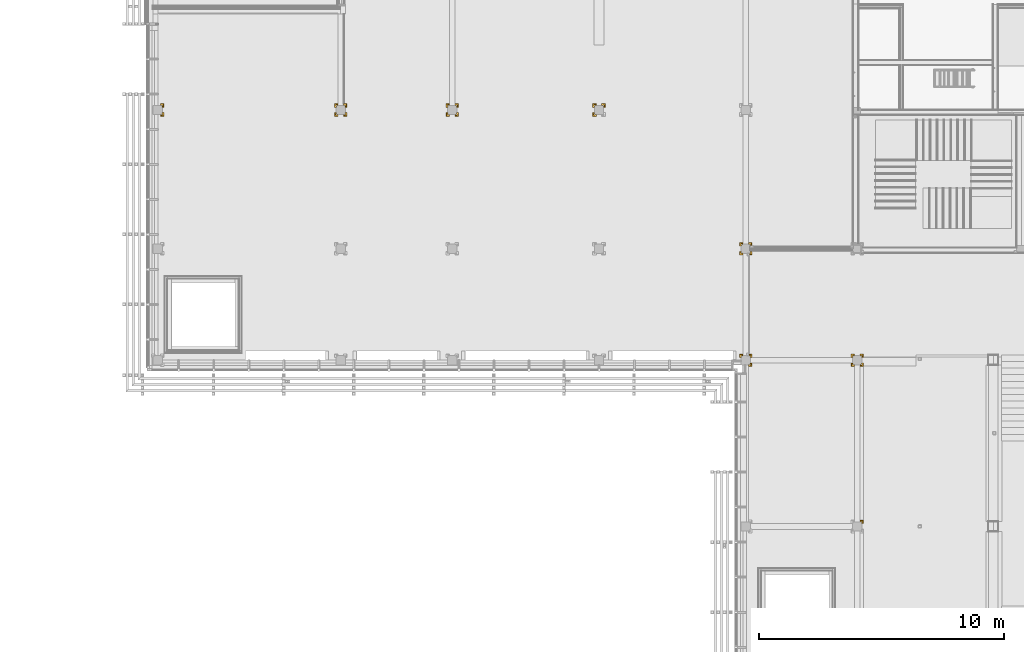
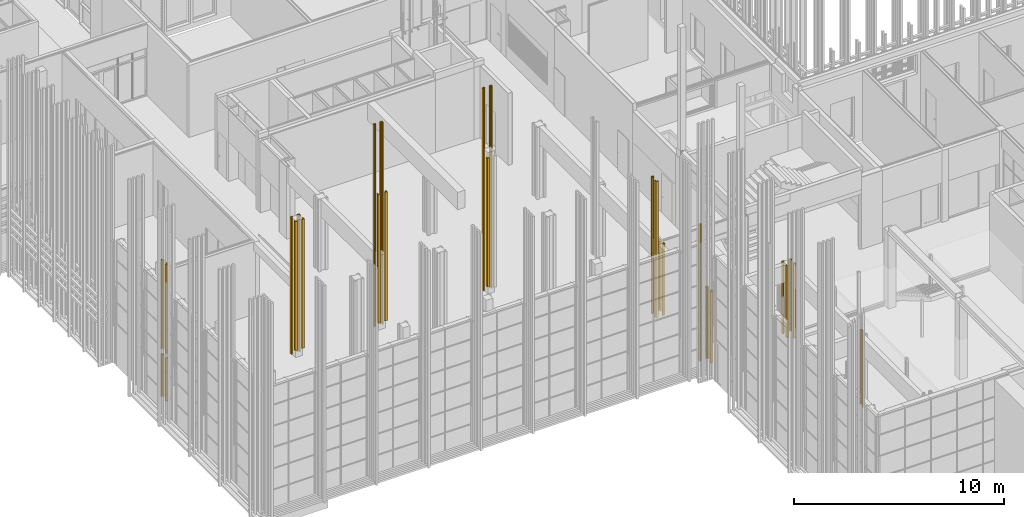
# One storey, part 256 of 260: 27 coverings.
"""IFC2X3 building model written with IfcOpenShell, lengths in millimetres."""

from ifc_helpers import new_model, entity, si_unit, converted_unit, derived_unit, money_unit, direction, frame, origin_with_axes, place, context, subcontext, project, spatial, faceted_brep, material, type_object, element, save


model = new_model("IFC2X3")

# Units and contexts
model_context = context("Model", 3, precision=0.01, world=origin_with_axes(), true_north=direction((0.0, 1.0)))
body_context = subcontext(model_context, "Body", "Model", "MODEL_VIEW")
ifc_project = project(units=[si_unit("LENGTHUNIT", "METRE", prefix="MILLI"), si_unit("AREAUNIT", "SQUARE_METRE"), si_unit("VOLUMEUNIT", "CUBIC_METRE"), converted_unit("PLANEANGLEUNIT", "DEGREE", entity("IfcPlaneAngleMeasure", 0.0174532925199), si_unit("PLANEANGLEUNIT", "RADIAN"), dimensions=[0, 0, 0, 0, 0, 0, 0]), money_unit("EUR"), converted_unit("TIMEUNIT", "Year", entity("IfcTimeMeasure", 31556926.0), si_unit("TIMEUNIT", "SECOND"), dimensions=[0, 0, 1, 0, 0, 0, 0]), si_unit("MASSUNIT", "GRAM", prefix="KILO"), si_unit("THERMODYNAMICTEMPERATUREUNIT", "DEGREE_CELSIUS"), si_unit("LUMINOUSINTENSITYUNIT", "LUMEN"), si_unit("ENERGYUNIT", "JOULE", prefix="MEGA"), derived_unit("THERMALCONDUCTANCEUNIT", [(si_unit("POWERUNIT", "WATT"), 1), (si_unit("LENGTHUNIT", "METRE"), -1), (si_unit("THERMODYNAMICTEMPERATUREUNIT", "KELVIN"), -1)]), derived_unit("SPECIFICHEATCAPACITYUNIT", [(si_unit("ENERGYUNIT", "JOULE"), 1), (si_unit("MASSUNIT", "GRAM", prefix="KILO"), -1), (si_unit("THERMODYNAMICTEMPERATUREUNIT", "KELVIN"), -1)]), derived_unit("MASSDENSITYUNIT", [(si_unit("MASSUNIT", "GRAM", prefix="KILO"), 1), (si_unit("VOLUMEUNIT", "CUBIC_METRE"), -1)])], contexts=[model_context])

# Site, building, storey
site_placement = place(None, origin_with_axes())
site = spatial("IfcSite", under=ifc_project, at=site_placement, Name="Kolde pst 67a", CompositionType="ELEMENT")
building_placement = place(site_placement, origin_with_axes())
building = spatial("IfcBuilding", under=site, at=building_placement, Name="Riigigümnaasium", CompositionType="ELEMENT")
storey_placement = place(building_placement, origin_with_axes())
storey = spatial("IfcBuildingStorey", under=building, at=storey_placement, Name="1. korrus", CompositionType="ELEMENT", Elevation=0.0)

# Coverings
ifc_material = material(Name="_KANDETARIND - liimpuit vastavalt EK osale")
covering_type = type_object("IfcCoveringType", Name="Aatriumi posti kõrvad 1 130 x 130", PredefinedType="NOTDEFINED")
covering_1_placement = place(storey_placement, frame((24230.0027342, 34439.9999729, 2760.0), z_axis=(0.0, 0.0, 1.0), x_axis=(1.0, 0.0, 0.0)))
element("IfcCovering", 1, at=covering_1_placement, inside=storey, type_object=covering_type, material=ifc_material, Name="Posti katteelement", PredefinedType="NOTDEFINED", context=body_context, shape_type="Brep", body=[
    faceted_brep([(120.000002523, -190.000000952, 5180.0), (120.000002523, -190.000000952, 0.0), (120.000002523, -250.0, 0.0), (120.000002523, -250.0, 5180.0), (149.995099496, -189.999999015, 5180.0), (149.995099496, -189.999999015, 0.0), (149.995099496, -209.999998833, 0.0), (209.995099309, -209.999998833, 0.0), (209.995099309, -149.99999902, 0.0), (189.995099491, -149.99999902, 0.0), (189.995101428, -119.999999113, 0.0), (250.00000341, -119.999999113, 0.0), (250.00000341, -250.0, 0.0), (250.00000341, -250.0, 5180.0), (250.00000341, -119.999999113, 5180.0), (189.995101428, -119.999999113, 5180.0), (189.995099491, -149.99999902, 5180.0), (209.995099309, -149.99999902, 5180.0), (209.995099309, -209.999998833, 5180.0), (149.995099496, -209.999998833, 5180.0)], [[[0, 1, 2, 3]], [[4, 5, 1, 0]], [[2, 1, 5, 6, 7, 8, 9, 10, 11, 12]], [[3, 2, 12, 13]], [[4, 0, 3, 13, 14, 15, 16, 17, 18, 19]], [[19, 6, 5, 4]], [[18, 7, 6, 19]], [[17, 8, 7, 18]], [[16, 9, 8, 17]], [[15, 10, 9, 16]], [[14, 11, 10, 15]], [[13, 12, 11, 14]]]),
])
covering_2_placement = place(storey_placement, frame((42239.99923, 34439.9999729, 460.0), z_axis=(0.0, 0.0, 1.0), x_axis=(1.0, 0.0, 0.0)))
element("IfcCovering", 2, at=covering_2_placement, inside=storey, type_object=covering_type, material=ifc_material, Name="Posti katteelement", PredefinedType="NOTDEFINED", context=body_context, shape_type="Brep", body=[
    faceted_brep([(-190.000000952, -120.000002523, 0.0), (-250.0, -120.000002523, 0.0), (-250.0, -120.000002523, 7460.0), (-190.000000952, -120.000002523, 7460.0), (-119.999999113, -189.995101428, 0.0), (-119.999999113, -250.00000341, 0.0), (-250.0, -250.00000341, 0.0), (-189.999999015, -149.995099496, 0.0), (-209.999998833, -149.995099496, 0.0), (-209.999998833, -209.995099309, 0.0), (-149.99999902, -209.995099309, 0.0), (-149.99999902, -189.995099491, 0.0), (-250.0, -250.00000341, 7460.0), (-149.99999902, -209.995099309, 7460.0), (-209.999998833, -209.995099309, 7460.0), (-209.999998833, -149.995099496, 7460.0), (-189.999999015, -149.995099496, 7460.0), (-119.999999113, -250.00000341, 7460.0), (-119.999999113, -189.995101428, 7460.0), (-149.99999902, -189.995099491, 7460.0)], [[[0, 1, 2, 3]], [[4, 5, 6, 1, 0, 7, 8, 9, 10, 11]], [[1, 6, 12, 2]], [[13, 14, 15, 16, 3, 2, 12, 17, 18, 19]], [[7, 0, 3, 16]], [[5, 4, 18, 17]], [[6, 5, 17, 12]], [[8, 7, 16, 15]], [[9, 8, 15, 14]], [[10, 9, 14, 13]], [[11, 10, 13, 19]], [[4, 11, 19, 18]]]),
])
covering_3_placement = place(storey_placement, frame((48229.9854607, 28779.9996998, 0.0), z_axis=(0.0, 0.0, 1.0), x_axis=(1.0, 0.0, 0.0)))
element("IfcCovering", 3, at=covering_3_placement, inside=storey, type_object=covering_type, material=ifc_material, Name="Posti katteelement", PredefinedType="NOTDEFINED", context=body_context, shape_type="Brep", body=[
    faceted_brep([(-250.0, -120.000002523, 7920.0), (-190.000000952, -120.000002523, 7920.0), (-190.000000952, -120.000002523, 0.0), (-250.0, -120.000002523, 0.0), (-209.999998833, -149.995099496, 7920.0), (-189.999999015, -149.995099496, 7920.0), (-250.0, -250.00000341, 7920.0), (-119.999999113, -250.00000341, 7920.0), (-119.999999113, -189.995101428, 7920.0), (-149.99999902, -189.995099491, 7920.0), (-149.99999902, -209.995099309, 7920.0), (-209.999998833, -209.995099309, 7920.0), (-189.999999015, -149.995099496, 0.0), (-250.0, -250.00000341, 0.0), (-209.999998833, -149.995099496, 0.0), (-209.999998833, -209.995099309, 0.0), (-149.99999902, -209.995099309, 0.0), (-149.99999902, -189.995099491, 0.0), (-119.999999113, -189.995101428, 0.0), (-119.999999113, -250.00000341, 0.0)], [[[0, 1, 2, 3]], [[4, 5, 1, 0, 6, 7, 8, 9, 10, 11]], [[1, 5, 12, 2]], [[13, 3, 2, 12, 14, 15, 16, 17, 18, 19]], [[6, 0, 3, 13]], [[5, 4, 14, 12]], [[7, 6, 13, 19]], [[8, 7, 19, 18]], [[9, 8, 18, 17]], [[10, 9, 17, 16]], [[11, 10, 16, 15]], [[4, 11, 15, 14]]]),
])
covering_4_placement = place(storey_placement, frame((31700.0027795, 34439.9999729, 460.0), z_axis=(0.0, 0.0, 1.0), x_axis=(1.0, 0.0, 0.0)))
element("IfcCovering", 4, at=covering_4_placement, inside=storey, type_object=covering_type, material=ifc_material, Name="Posti katteelement", PredefinedType="NOTDEFINED", context=body_context, shape_type="Brep", body=[
    faceted_brep([(-250.0, -120.000002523, 0.0), (-250.0, -120.000002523, 7480.0), (-190.000000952, -120.000002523, 7480.0), (-190.000000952, -120.000002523, 0.0), (-250.0, -250.00000341, 0.0), (-250.0, -250.00000341, 7480.0), (-209.999998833, -209.995099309, 7480.0), (-209.999998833, -149.995099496, 7480.0), (-189.999999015, -149.995099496, 7480.0), (-119.999999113, -250.00000341, 7480.0), (-119.999999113, -189.995101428, 7480.0), (-149.99999902, -189.995099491, 7480.0), (-149.99999902, -209.995099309, 7480.0), (-189.999999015, -149.995099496, 0.0), (-119.999999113, -250.00000341, 0.0), (-209.999998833, -149.995099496, 0.0), (-209.999998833, -209.995099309, 0.0), (-149.99999902, -209.995099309, 0.0), (-149.99999902, -189.995099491, 0.0), (-119.999999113, -189.995101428, 0.0)], [[[0, 1, 2, 3]], [[4, 5, 1, 0]], [[6, 7, 8, 2, 1, 5, 9, 10, 11, 12]], [[3, 2, 8, 13]], [[14, 4, 0, 3, 13, 15, 16, 17, 18, 19]], [[14, 9, 5, 4]], [[15, 7, 6, 16]], [[13, 8, 7, 15]], [[19, 10, 9, 14]], [[18, 11, 10, 19]], [[17, 12, 11, 18]], [[16, 6, 12, 17]]]),
])
covering_5_placement = place(storey_placement, frame((36249.99923, 34439.9999729, 460.0), z_axis=(0.0, 0.0, 1.0), x_axis=(1.0, 0.0, 0.0)))
element("IfcCovering", 5, at=covering_5_placement, inside=storey, type_object=covering_type, material=ifc_material, Name="Posti katteelement", PredefinedType="NOTDEFINED", context=body_context, shape_type="Brep", body=[
    faceted_brep([(-190.000000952, -120.000002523, 0.0), (-250.0, -120.000002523, 0.0), (-250.0, -120.000002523, 7460.0), (-190.000000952, -120.000002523, 7460.0), (-119.999999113, -189.995101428, 0.0), (-119.999999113, -250.00000341, 0.0), (-250.0, -250.00000341, 0.0), (-189.999999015, -149.995099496, 0.0), (-209.999998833, -149.995099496, 0.0), (-209.999998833, -209.995099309, 0.0), (-149.99999902, -209.995099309, 0.0), (-149.99999902, -189.995099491, 0.0), (-250.0, -250.00000341, 7460.0), (-149.99999902, -209.995099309, 7460.0), (-209.999998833, -209.995099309, 7460.0), (-209.999998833, -149.995099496, 7460.0), (-189.999999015, -149.995099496, 7460.0), (-119.999999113, -250.00000341, 7460.0), (-119.999999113, -189.995101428, 7460.0), (-149.99999902, -189.995099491, 7460.0)], [[[0, 1, 2, 3]], [[4, 5, 6, 1, 0, 7, 8, 9, 10, 11]], [[1, 6, 12, 2]], [[13, 14, 15, 16, 3, 2, 12, 17, 18, 19]], [[7, 0, 3, 16]], [[5, 4, 18, 17]], [[6, 5, 17, 12]], [[8, 7, 16, 15]], [[9, 8, 15, 14]], [[10, 9, 14, 13]], [[11, 10, 13, 19]], [[4, 11, 19, 18]]]),
])
covering_6_placement = place(storey_placement, frame((52779.9941032, 24229.9965348, 0.0), z_axis=(0.0, 0.0, 1.0), x_axis=(1.0, 0.0, 0.0)))
element("IfcCovering", 6, at=covering_6_placement, inside=storey, type_object=covering_type, material=ifc_material, Name="Posti katteelement", PredefinedType="NOTDEFINED", context=body_context, shape_type="Brep", body=[
    faceted_brep([(-120.000002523, 250.0, 4170.0), (-120.000002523, 190.000000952, 4170.0), (-120.000002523, 190.000000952, 0.0), (-120.000002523, 250.0, 0.0), (-149.995099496, 209.999998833, 4170.0), (-149.995099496, 189.999999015, 4170.0), (-250.00000341, 250.0, 4170.0), (-250.00000341, 119.999999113, 4170.0), (-189.995101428, 119.999999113, 4170.0), (-189.995099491, 149.99999902, 4170.0), (-209.995099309, 149.99999902, 4170.0), (-209.995099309, 209.999998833, 4170.0), (-149.995099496, 189.999999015, 0.0), (-250.00000341, 250.0, 0.0), (-149.995099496, 209.999998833, 0.0), (-209.995099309, 209.999998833, 0.0), (-209.995099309, 149.99999902, 0.0), (-189.995099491, 149.99999902, 0.0), (-189.995101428, 119.999999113, 0.0), (-250.00000341, 119.999999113, 0.0)], [[[0, 1, 2, 3]], [[4, 5, 1, 0, 6, 7, 8, 9, 10, 11]], [[1, 5, 12, 2]], [[13, 3, 2, 12, 14, 15, 16, 17, 18, 19]], [[6, 0, 3, 13]], [[5, 4, 14, 12]], [[7, 6, 13, 19]], [[8, 7, 19, 18]], [[9, 8, 18, 17]], [[10, 9, 17, 16]], [[11, 10, 16, 15]], [[4, 11, 15, 14]]]),
])
covering_7_placement = place(storey_placement, frame((48229.9854607, 24229.9965348, 0.0), z_axis=(0.0, 0.0, 1.0), x_axis=(1.0, 0.0, 0.0)))
element("IfcCovering", 7, at=covering_7_placement, inside=storey, type_object=covering_type, material=ifc_material, Name="Posti katteelement", PredefinedType="NOTDEFINED", context=body_context, shape_type="Brep", body=[
    faceted_brep([(149.995099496, 189.999999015, 4170.0), (149.995099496, 189.999999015, 0.0), (149.995099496, 209.999998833, 0.0), (149.995099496, 209.999998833, 4170.0), (120.000002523, 190.000000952, 4170.0), (120.000002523, 190.000000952, 0.0), (120.000002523, 250.0, 0.0), (250.00000341, 250.0, 0.0), (250.00000341, 119.999999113, 0.0), (189.995101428, 119.999999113, 0.0), (189.995099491, 149.99999902, 0.0), (209.995099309, 149.99999902, 0.0), (209.995099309, 209.999998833, 0.0), (209.995099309, 209.999998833, 4170.0), (209.995099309, 149.99999902, 4170.0), (189.995099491, 149.99999902, 4170.0), (189.995101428, 119.999999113, 4170.0), (250.00000341, 119.999999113, 4170.0), (250.00000341, 250.0, 4170.0), (120.000002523, 250.0, 4170.0)], [[[0, 1, 2, 3]], [[4, 5, 1, 0]], [[2, 1, 5, 6, 7, 8, 9, 10, 11, 12]], [[3, 2, 12, 13]], [[4, 0, 3, 13, 14, 15, 16, 17, 18, 19]], [[19, 6, 5, 4]], [[18, 7, 6, 19]], [[17, 8, 7, 18]], [[16, 9, 8, 17]], [[15, 10, 9, 16]], [[14, 11, 10, 15]], [[13, 12, 11, 14]]]),
])
covering_8_placement = place(storey_placement, frame((48229.9854607, 24229.9965348, 0.0), z_axis=(0.0, 0.0, 1.0), x_axis=(1.0, 0.0, 0.0)))
element("IfcCovering", 8, at=covering_8_placement, inside=storey, type_object=covering_type, material=ifc_material, Name="Posti katteelement", PredefinedType="NOTDEFINED", context=body_context, shape_type="Brep", body=[
    faceted_brep([(-120.000002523, 190.000000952, 7920.0), (-120.000002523, 190.000000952, 0.0), (-120.000002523, 250.0, 0.0), (-120.000002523, 250.0, 7920.0), (-149.995099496, 189.999999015, 7920.0), (-149.995099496, 189.999999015, 0.0), (-149.995099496, 209.999998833, 0.0), (-209.995099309, 209.999998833, 0.0), (-209.995099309, 149.99999902, 0.0), (-189.995099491, 149.99999902, 0.0), (-189.995101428, 119.999999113, 0.0), (-250.00000341, 119.999999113, 0.0), (-250.00000341, 250.0, 0.0), (-250.00000341, 250.0, 7920.0), (-250.00000341, 119.999999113, 7920.0), (-189.995101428, 119.999999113, 7920.0), (-189.995099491, 149.99999902, 7920.0), (-209.995099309, 149.99999902, 7920.0), (-209.995099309, 209.999998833, 7920.0), (-149.995099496, 209.999998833, 7920.0)], [[[0, 1, 2, 3]], [[4, 5, 1, 0]], [[2, 1, 5, 6, 7, 8, 9, 10, 11, 12]], [[3, 2, 12, 13]], [[4, 0, 3, 13, 14, 15, 16, 17, 18, 19]], [[19, 6, 5, 4]], [[18, 7, 6, 19]], [[17, 8, 7, 18]], [[16, 9, 8, 17]], [[15, 10, 9, 16]], [[14, 11, 10, 15]], [[13, 12, 11, 14]]]),
])
for number, where, z_axis, x_axis in (
    (9, (42239.99923, 34439.9999729, 0.0), (0.0, 0.0, 1.0), (-1.36394648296e-08, -1.0, 0.0)),
    (10, (42239.99923, 34439.9999729, 0.0), (0.0, 0.0, 1.0), (-0.999999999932, -1.1679308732e-05, 0.0)),
    (11, (36249.99923, 34439.9999729, 0.0), (0.0, 0.0, 1.0), (-1.36394648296e-08, -1.0, 0.0)),
    (12, (36249.99923, 34439.9999729, 0.0), (0.0, 0.0, 1.0), (-1.0, 0.0, 0.0)),
):
    element("IfcCovering", number, at=place(storey_placement, frame(where, z_axis=z_axis, x_axis=x_axis)), inside=storey, type_object=covering_type, material=ifc_material, Name="Posti katteelement", PredefinedType="NOTDEFINED", context=body_context, shape_type="Brep", body=[
        faceted_brep([(-190.000000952, -120.000002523, 11730.0), (-190.000000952, -120.000002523, 0.0), (-250.0, -120.000002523, 0.0), (-250.0, -120.000002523, 11730.0), (-189.999999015, -149.995099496, 11730.0), (-189.999999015, -149.995099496, 0.0), (-209.999998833, -149.995099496, 0.0), (-209.999998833, -209.995099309, 0.0), (-149.99999902, -209.995099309, 0.0), (-149.99999902, -189.995099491, 0.0), (-119.999999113, -189.995101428, 0.0), (-119.999999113, -250.00000341, 0.0), (-250.0, -250.00000341, 0.0), (-250.0, -250.00000341, 11730.0), (-119.999999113, -250.00000341, 11730.0), (-119.999999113, -189.995101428, 11730.0), (-149.99999902, -189.995099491, 11730.0), (-149.99999902, -209.995099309, 11730.0), (-209.999998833, -209.995099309, 11730.0), (-209.999998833, -149.995099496, 11730.0)], [[[0, 1, 2, 3]], [[4, 5, 1, 0]], [[2, 1, 5, 6, 7, 8, 9, 10, 11, 12]], [[3, 2, 12, 13]], [[4, 0, 3, 13, 14, 15, 16, 17, 18, 19]], [[19, 6, 5, 4]], [[18, 7, 6, 19]], [[17, 8, 7, 18]], [[16, 9, 8, 17]], [[15, 10, 9, 16]], [[14, 11, 10, 15]], [[13, 12, 11, 14]]]),
    ])
covering_9_placement = place(storey_placement, frame((36249.99923, 34439.9999729, 460.0), z_axis=(0.0, 0.0, 1.0), x_axis=(1.36394649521e-08, 1.0, 0.0)))
element("IfcCovering", 13, at=covering_9_placement, inside=storey, type_object=covering_type, material=ifc_material, Name="Posti katteelement", PredefinedType="NOTDEFINED", context=body_context, shape_type="Brep", body=[
    faceted_brep([(-190.000000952, -120.000002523, 7460.0), (-190.000000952, -120.000002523, 0.0), (-250.0, -120.000002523, 0.0), (-250.0, -120.000002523, 7460.0), (-189.999999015, -149.995099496, 7460.0), (-189.999999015, -149.995099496, 0.0), (-209.999998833, -149.995099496, 0.0), (-209.999998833, -209.995099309, 0.0), (-149.99999902, -209.995099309, 0.0), (-149.99999902, -189.995099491, 0.0), (-119.999999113, -189.995101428, 0.0), (-119.999999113, -250.00000341, 0.0), (-250.0, -250.00000341, 0.0), (-250.0, -250.00000341, 7460.0), (-119.999999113, -250.00000341, 7460.0), (-119.999999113, -189.995101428, 7460.0), (-149.99999902, -189.995099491, 7460.0), (-149.99999902, -209.995099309, 7460.0), (-209.999998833, -209.995099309, 7460.0), (-209.999998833, -149.995099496, 7460.0)], [[[0, 1, 2, 3]], [[4, 5, 1, 0]], [[2, 1, 5, 6, 7, 8, 9, 10, 11, 12]], [[3, 2, 12, 13]], [[4, 0, 3, 13, 14, 15, 16, 17, 18, 19]], [[19, 6, 5, 4]], [[18, 7, 6, 19]], [[17, 8, 7, 18]], [[16, 9, 8, 17]], [[15, 10, 9, 16]], [[14, 11, 10, 15]], [[13, 12, 11, 14]]]),
])
for number, where, z_axis, x_axis in (
    (14, (31700.0027795, 34439.9999729, 0.0), (0.0, 0.0, 1.0), (0.0, -1.0, 0.0)),
    (15, (31700.0027795, 34439.9999729, 0.0), (0.0, 0.0, 1.0), (-1.0, 0.0, 0.0)),
):
    element("IfcCovering", number, at=place(storey_placement, frame(where, z_axis=z_axis, x_axis=x_axis)), inside=storey, type_object=covering_type, material=ifc_material, Name="Posti katteelement", PredefinedType="NOTDEFINED", context=body_context, shape_type="Brep", body=[
        faceted_brep([(-190.000000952, -120.000002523, 7940.0), (-190.000000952, -120.000002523, 0.0), (-250.0, -120.000002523, 0.0), (-250.0, -120.000002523, 7940.0), (-189.999999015, -149.995099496, 7940.0), (-189.999999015, -149.995099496, 0.0), (-209.999998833, -149.995099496, 0.0), (-209.999998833, -209.995099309, 0.0), (-149.99999902, -209.995099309, 0.0), (-149.99999902, -189.995099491, 0.0), (-119.999999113, -189.995101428, 0.0), (-119.999999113, -250.00000341, 0.0), (-250.0, -250.00000341, 0.0), (-250.0, -250.00000341, 7940.0), (-119.999999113, -250.00000341, 7940.0), (-119.999999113, -189.995101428, 7940.0), (-149.99999902, -189.995099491, 7940.0), (-149.99999902, -209.995099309, 7940.0), (-209.999998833, -209.995099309, 7940.0), (-209.999998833, -149.995099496, 7940.0)], [[[0, 1, 2, 3]], [[4, 5, 1, 0]], [[2, 1, 5, 6, 7, 8, 9, 10, 11, 12]], [[3, 2, 12, 13]], [[4, 0, 3, 13, 14, 15, 16, 17, 18, 19]], [[19, 6, 5, 4]], [[18, 7, 6, 19]], [[17, 8, 7, 18]], [[16, 9, 8, 17]], [[15, 10, 9, 16]], [[14, 11, 10, 15]], [[13, 12, 11, 14]]]),
    ])
covering_10_placement = place(storey_placement, frame((31700.0027795, 34439.9999729, 460.0), z_axis=(0.0, 0.0, 1.0), x_axis=(0.0, 1.0, 0.0)))
element("IfcCovering", 16, at=covering_10_placement, inside=storey, type_object=covering_type, material=ifc_material, Name="Posti katteelement", PredefinedType="NOTDEFINED", context=body_context, shape_type="Brep", body=[
    faceted_brep([(-190.000000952, -120.000002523, 7480.0), (-190.000000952, -120.000002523, 0.0), (-250.0, -120.000002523, 0.0), (-250.0, -120.000002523, 7480.0), (-189.999999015, -149.995099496, 7480.0), (-189.999999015, -149.995099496, 0.0), (-209.999998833, -149.995099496, 0.0), (-209.999998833, -209.995099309, 0.0), (-149.99999902, -209.995099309, 0.0), (-149.99999902, -189.995099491, 0.0), (-119.999999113, -189.995101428, 0.0), (-119.999999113, -250.00000341, 0.0), (-250.0, -250.00000341, 0.0), (-250.0, -250.00000341, 7480.0), (-119.999999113, -250.00000341, 7480.0), (-119.999999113, -189.995101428, 7480.0), (-149.99999902, -189.995099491, 7480.0), (-149.99999902, -209.995099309, 7480.0), (-209.999998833, -209.995099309, 7480.0), (-209.999998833, -149.995099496, 7480.0)], [[[0, 1, 2, 3]], [[4, 5, 1, 0]], [[2, 1, 5, 6, 7, 8, 9, 10, 11, 12]], [[3, 2, 12, 13]], [[4, 0, 3, 13, 14, 15, 16, 17, 18, 19]], [[19, 6, 5, 4]], [[18, 7, 6, 19]], [[17, 8, 7, 18]], [[16, 9, 8, 17]], [[15, 10, 9, 16]], [[14, 11, 10, 15]], [[13, 12, 11, 14]]]),
])
covering_11_placement = place(storey_placement, frame((48229.9854607, 28779.9996998, 0.0), z_axis=(0.0, 0.0, 1.0), x_axis=(0.0, -1.0, 0.0)))
element("IfcCovering", 17, at=covering_11_placement, inside=storey, type_object=covering_type, material=ifc_material, Name="Posti katteelement", PredefinedType="NOTDEFINED", context=body_context, shape_type="Brep", body=[
    faceted_brep([(-190.000000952, -120.000002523, 7920.0), (-190.000000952, -120.000002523, 0.0), (-250.0, -120.000002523, 0.0), (-250.0, -120.000002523, 7920.0), (-189.999999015, -149.995099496, 7920.0), (-189.999999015, -149.995099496, 0.0), (-209.999998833, -149.995099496, 0.0), (-209.999998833, -209.995099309, 0.0), (-149.99999902, -209.995099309, 0.0), (-149.99999902, -189.995099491, 0.0), (-119.999999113, -189.995101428, 0.0), (-119.999999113, -250.00000341, 0.0), (-250.0, -250.00000341, 0.0), (-250.0, -250.00000341, 7920.0), (-119.999999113, -250.00000341, 7920.0), (-119.999999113, -189.995101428, 7920.0), (-149.99999902, -189.995099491, 7920.0), (-149.99999902, -209.995099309, 7920.0), (-209.999998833, -209.995099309, 7920.0), (-209.999998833, -149.995099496, 7920.0)], [[[0, 1, 2, 3]], [[4, 5, 1, 0]], [[2, 1, 5, 6, 7, 8, 9, 10, 11, 12]], [[3, 2, 12, 13]], [[4, 0, 3, 13, 14, 15, 16, 17, 18, 19]], [[19, 6, 5, 4]], [[18, 7, 6, 19]], [[17, 8, 7, 18]], [[16, 9, 8, 17]], [[15, 10, 9, 16]], [[14, 11, 10, 15]], [[13, 12, 11, 14]]]),
])
for number, where, z_axis, x_axis in (
    (18, (48229.9854607, 28779.9996998, 0.0), (0.0, 0.0, 1.0), (-1.0, 0.0, 0.0)),
    (19, (48229.9854607, 28779.9996998, 0.0), (0.0, 0.0, 1.0), (0.0, 1.0, 0.0)),
):
    element("IfcCovering", number, at=place(storey_placement, frame(where, z_axis=z_axis, x_axis=x_axis)), inside=storey, type_object=covering_type, material=ifc_material, Name="Posti katteelement", PredefinedType="NOTDEFINED", context=body_context, shape_type="Brep", body=[
        faceted_brep([(-190.000000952, -120.000002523, 4170.0), (-190.000000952, -120.000002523, 0.0), (-250.0, -120.000002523, 0.0), (-250.0, -120.000002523, 4170.0), (-189.999999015, -149.995099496, 4170.0), (-189.999999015, -149.995099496, 0.0), (-209.999998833, -149.995099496, 0.0), (-209.999998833, -209.995099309, 0.0), (-149.99999902, -209.995099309, 0.0), (-149.99999902, -189.995099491, 0.0), (-119.999999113, -189.995101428, 0.0), (-119.999999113, -250.00000341, 0.0), (-250.0, -250.00000341, 0.0), (-250.0, -250.00000341, 4170.0), (-119.999999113, -250.00000341, 4170.0), (-119.999999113, -189.995101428, 4170.0), (-149.99999902, -189.995099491, 4170.0), (-149.99999902, -209.995099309, 4170.0), (-209.999998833, -209.995099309, 4170.0), (-209.999998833, -149.995099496, 4170.0)], [[[0, 1, 2, 3]], [[4, 5, 1, 0]], [[2, 1, 5, 6, 7, 8, 9, 10, 11, 12]], [[3, 2, 12, 13]], [[4, 0, 3, 13, 14, 15, 16, 17, 18, 19]], [[19, 6, 5, 4]], [[18, 7, 6, 19]], [[17, 8, 7, 18]], [[16, 9, 8, 17]], [[15, 10, 9, 16]], [[14, 11, 10, 15]], [[13, 12, 11, 14]]]),
    ])
covering_12_placement = place(storey_placement, frame((24230.0027342, 34439.9999729, 2760.0), z_axis=(0.0, 0.0, 1.0), x_axis=(1.36394791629e-08, 1.0, 0.0)))
element("IfcCovering", 20, at=covering_12_placement, inside=storey, type_object=covering_type, material=ifc_material, Name="Posti katteelement", PredefinedType="NOTDEFINED", context=body_context, shape_type="Brep", body=[
    faceted_brep([(120.000002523, -190.000000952, 5180.0), (120.000002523, -190.000000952, 0.0), (120.000002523, -250.0, 0.0), (120.000002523, -250.0, 5180.0), (149.995099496, -189.999999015, 5180.0), (149.995099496, -189.999999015, 0.0), (149.995099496, -209.999998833, 0.0), (209.995099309, -209.999998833, 0.0), (209.995099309, -149.99999902, 0.0), (189.995099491, -149.99999902, 0.0), (189.995101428, -119.999999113, 0.0), (250.00000341, -119.999999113, 0.0), (250.00000341, -250.0, 0.0), (250.00000341, -250.0, 5180.0), (250.00000341, -119.999999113, 5180.0), (189.995101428, -119.999999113, 5180.0), (189.995099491, -149.99999902, 5180.0), (209.995099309, -149.99999902, 5180.0), (209.995099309, -209.999998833, 5180.0), (149.995099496, -209.999998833, 5180.0)], [[[0, 1, 2, 3]], [[4, 5, 1, 0]], [[2, 1, 5, 6, 7, 8, 9, 10, 11, 12]], [[3, 2, 12, 13]], [[4, 0, 3, 13, 14, 15, 16, 17, 18, 19]], [[19, 6, 5, 4]], [[18, 7, 6, 19]], [[17, 8, 7, 18]], [[16, 9, 8, 17]], [[15, 10, 9, 16]], [[14, 11, 10, 15]], [[13, 12, 11, 14]]]),
])
for number, where, z_axis, x_axis in (
    (21, (24230.0027342, 34439.9999729, 0.0), (0.0, 0.0, 1.0), (1.0, 0.0, 0.0)),
    (22, (24230.0027342, 34439.9999729, 0.0), (0.0, 0.0, 1.0), (1.36394791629e-08, 1.0, 0.0)),
):
    element("IfcCovering", number, at=place(storey_placement, frame(where, z_axis=z_axis, x_axis=x_axis)), inside=storey, type_object=covering_type, material=ifc_material, Name="Posti katteelement", PredefinedType="NOTDEFINED", context=body_context, shape_type="Brep", body=[
        faceted_brep([(120.000002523, -190.000000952, 2480.0), (120.000002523, -190.000000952, 0.0), (120.000002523, -250.0, 0.0), (120.000002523, -250.0, 2480.0), (149.995099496, -189.999999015, 2480.0), (149.995099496, -189.999999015, 0.0), (149.995099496, -209.999998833, 0.0), (209.995099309, -209.999998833, 0.0), (209.995099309, -149.99999902, 0.0), (189.995099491, -149.99999902, 0.0), (189.995101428, -119.999999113, 0.0), (250.00000341, -119.999999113, 0.0), (250.00000341, -250.0, 0.0), (250.00000341, -250.0, 2480.0), (250.00000341, -119.999999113, 2480.0), (189.995101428, -119.999999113, 2480.0), (189.995099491, -149.99999902, 2480.0), (209.995099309, -149.99999902, 2480.0), (209.995099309, -209.999998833, 2480.0), (149.995099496, -209.999998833, 2480.0)], [[[0, 1, 2, 3]], [[4, 5, 1, 0]], [[2, 1, 5, 6, 7, 8, 9, 10, 11, 12]], [[3, 2, 12, 13]], [[4, 0, 3, 13, 14, 15, 16, 17, 18, 19]], [[19, 6, 5, 4]], [[18, 7, 6, 19]], [[17, 8, 7, 18]], [[16, 9, 8, 17]], [[15, 10, 9, 16]], [[14, 11, 10, 15]], [[13, 12, 11, 14]]]),
    ])
covering_13_placement = place(storey_placement, frame((52779.9941032, 17449.9999742, -300.0), z_axis=(0.0, 0.0, 1.0), x_axis=(0.0, -1.0, 0.0)))
element("IfcCovering", 23, at=covering_13_placement, inside=storey, type_object=covering_type, material=ifc_material, Name="Posti katteelement", PredefinedType="NOTDEFINED", context=body_context, shape_type="Brep", body=[
    faceted_brep([(-189.999999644, 250.00000341, 0.0), (-189.999999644, 250.00000341, 150.0), (-250.00000341, 250.00000341, 150.0), (-250.00000341, 250.0, 4470.0), (-120.000002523, 250.0, 4470.0), (-120.000002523, 250.0, 0.0), (-189.999999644, 209.999998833, 0.0), (-189.999999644, 209.999998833, 150.0), (-250.00000341, 119.999999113, 150.0), (-209.995099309, 209.999998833, 150.0), (-209.995099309, 149.99999902, 150.0), (-189.999999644, 149.99999902, 150.0), (-189.999999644, 119.999999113, 150.0), (-250.00000341, 119.999999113, 4470.0), (-149.995099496, 209.999998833, 4470.0), (-149.995099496, 189.999999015, 4470.0), (-120.000002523, 190.000000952, 4470.0), (-189.995101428, 119.999999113, 4470.0), (-189.995099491, 149.99999902, 4470.0), (-209.995099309, 149.99999902, 4470.0), (-209.995099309, 209.999998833, 4470.0), (-120.000002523, 190.000000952, 0.0), (-149.995099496, 189.999999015, 0.0), (-149.995099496, 209.999998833, 0.0)], [[[0, 1, 2, 3, 4, 5]], [[1, 0, 6, 7]], [[8, 2, 1, 7, 9, 10, 11, 12]], [[2, 8, 13, 3]], [[14, 15, 16, 4, 3, 13, 17, 18, 19, 20]], [[4, 16, 21, 5]], [[6, 0, 5, 21, 22, 23]], [[7, 6, 23, 14, 20, 9]], [[10, 9, 20, 19]], [[11, 10, 19, 18]], [[12, 11, 18, 17]], [[8, 12, 17, 13]], [[15, 14, 23, 22]], [[16, 15, 22, 21]]]),
])
covering_14_placement = place(storey_placement, frame((52779.9941032, 24229.9965348, 0.0), z_axis=(0.0, 0.0, 1.0), x_axis=(-1.00011905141e-07, 1.0, 0.0)))
element("IfcCovering", 24, at=covering_14_placement, inside=storey, type_object=covering_type, material=ifc_material, Name="Posti katteelement", PredefinedType="NOTDEFINED", context=body_context, shape_type="Brep", body=[
    faceted_brep([(-120.000002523, 190.000000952, 4170.0), (-120.000002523, 190.000000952, 0.0), (-120.000002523, 250.0, 0.0), (-120.000002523, 250.0, 4170.0), (-149.995099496, 189.999999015, 4170.0), (-149.995099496, 189.999999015, 0.0), (-149.995099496, 209.999998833, 0.0), (-209.995099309, 209.999998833, 0.0), (-209.995099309, 149.99999902, 0.0), (-189.995099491, 149.99999902, 0.0), (-189.995101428, 119.999999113, 0.0), (-250.00000341, 119.999999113, 0.0), (-250.00000341, 250.0, 0.0), (-250.00000341, 250.0, 4170.0), (-250.00000341, 119.999999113, 4170.0), (-189.995101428, 119.999999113, 4170.0), (-189.995099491, 149.99999902, 4170.0), (-209.995099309, 149.99999902, 4170.0), (-209.995099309, 209.999998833, 4170.0), (-149.995099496, 209.999998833, 4170.0)], [[[0, 1, 2, 3]], [[4, 5, 1, 0]], [[2, 1, 5, 6, 7, 8, 9, 10, 11, 12]], [[3, 2, 12, 13]], [[4, 0, 3, 13, 14, 15, 16, 17, 18, 19]], [[19, 6, 5, 4]], [[18, 7, 6, 19]], [[17, 8, 7, 18]], [[16, 9, 8, 17]], [[15, 10, 9, 16]], [[14, 11, 10, 15]], [[13, 12, 11, 14]]]),
])
covering_15_placement = place(storey_placement, frame((52779.9941032, 24229.9965348, -150.0), z_axis=(0.0, 0.0, 1.0), x_axis=(-1.0, 1.56837556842e-07, 0.0)))
element("IfcCovering", 25, at=covering_15_placement, inside=storey, type_object=covering_type, material=ifc_material, Name="Posti katteelement", PredefinedType="NOTDEFINED", context=body_context, shape_type="Brep", body=[
    faceted_brep([(-120.000002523, 190.000000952, 4320.0), (-120.000002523, 190.000000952, 0.0), (-120.000002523, 250.0, 0.0), (-120.000002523, 250.0, 4320.0), (-149.995099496, 189.999999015, 4320.0), (-149.995099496, 189.999999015, 0.0), (-149.995099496, 209.999998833, 0.0), (-209.995099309, 209.999998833, 0.0), (-209.995099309, 149.99999902, 0.0), (-189.995099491, 149.99999902, 0.0), (-189.995101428, 119.999999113, 0.0), (-250.00000341, 119.999999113, 0.0), (-250.00000341, 250.0, 0.0), (-250.00000341, 250.0, 4320.0), (-250.00000341, 119.999999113, 4320.0), (-189.995101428, 119.999999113, 4320.0), (-189.995099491, 149.99999902, 4320.0), (-209.995099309, 149.99999902, 4320.0), (-209.995099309, 209.999998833, 4320.0), (-149.995099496, 209.999998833, 4320.0)], [[[0, 1, 2, 3]], [[4, 5, 1, 0]], [[2, 1, 5, 6, 7, 8, 9, 10, 11, 12]], [[3, 2, 12, 13]], [[4, 0, 3, 13, 14, 15, 16, 17, 18, 19]], [[19, 6, 5, 4]], [[18, 7, 6, 19]], [[17, 8, 7, 18]], [[16, 9, 8, 17]], [[15, 10, 9, 16]], [[14, 11, 10, 15]], [[13, 12, 11, 14]]]),
])
covering_16_placement = place(storey_placement, frame((52779.9941032, 24229.9965348, 0.0), z_axis=(0.0, 0.0, 1.0), x_axis=(-5.68256516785e-08, -1.0, 0.0)))
element("IfcCovering", 26, at=covering_16_placement, inside=storey, type_object=covering_type, material=ifc_material, Name="Posti katteelement", PredefinedType="NOTDEFINED", context=body_context, shape_type="Brep", body=[
    faceted_brep([(-120.000002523, 190.000000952, 4170.0), (-120.000002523, 190.000000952, 0.0), (-120.000002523, 250.0, 0.0), (-120.000002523, 250.0, 4170.0), (-149.995099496, 189.999999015, 4170.0), (-149.995099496, 189.999999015, 0.0), (-149.995099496, 209.999998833, 0.0), (-209.995099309, 209.999998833, 0.0), (-209.995099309, 149.99999902, 0.0), (-189.995099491, 149.99999902, 0.0), (-189.995101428, 119.999999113, 0.0), (-250.00000341, 119.999999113, 0.0), (-250.00000341, 250.0, 0.0), (-250.00000341, 250.0, 4170.0), (-250.00000341, 119.999999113, 4170.0), (-189.995101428, 119.999999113, 4170.0), (-189.995099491, 149.99999902, 4170.0), (-209.995099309, 149.99999902, 4170.0), (-209.995099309, 209.999998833, 4170.0), (-149.995099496, 209.999998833, 4170.0)], [[[0, 1, 2, 3]], [[4, 5, 1, 0]], [[2, 1, 5, 6, 7, 8, 9, 10, 11, 12]], [[3, 2, 12, 13]], [[4, 0, 3, 13, 14, 15, 16, 17, 18, 19]], [[19, 6, 5, 4]], [[18, 7, 6, 19]], [[17, 8, 7, 18]], [[16, 9, 8, 17]], [[15, 10, 9, 16]], [[14, 11, 10, 15]], [[13, 12, 11, 14]]]),
])
covering_17_placement = place(storey_placement, frame((48229.9854607, 24229.9965348, 0.0), z_axis=(0.0, 0.0, 1.0), x_axis=(0.0, -1.0, 0.0)))
element("IfcCovering", 27, at=covering_17_placement, inside=storey, type_object=covering_type, material=ifc_material, Name="Posti katteelement", PredefinedType="NOTDEFINED", context=body_context, shape_type="Brep", body=[
    faceted_brep([(149.995099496, 189.999999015, 4170.0), (149.995099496, 189.999999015, 0.0), (149.995099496, 209.999998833, 0.0), (149.995099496, 209.999998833, 4170.0), (120.000002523, 190.000000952, 4170.0), (120.000002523, 190.000000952, 0.0), (120.000002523, 250.0, 0.0), (250.00000341, 250.0, 0.0), (250.00000341, 119.999999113, 0.0), (189.995101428, 119.999999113, 0.0), (189.995099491, 149.99999902, 0.0), (209.995099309, 149.99999902, 0.0), (209.995099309, 209.999998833, 0.0), (209.995099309, 209.999998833, 4170.0), (209.995099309, 149.99999902, 4170.0), (189.995099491, 149.99999902, 4170.0), (189.995101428, 119.999999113, 4170.0), (250.00000341, 119.999999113, 4170.0), (250.00000341, 250.0, 4170.0), (120.000002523, 250.0, 4170.0)], [[[0, 1, 2, 3]], [[4, 5, 1, 0]], [[2, 1, 5, 6, 7, 8, 9, 10, 11, 12]], [[3, 2, 12, 13]], [[4, 0, 3, 13, 14, 15, 16, 17, 18, 19]], [[19, 6, 5, 4]], [[18, 7, 6, 19]], [[17, 8, 7, 18]], [[16, 9, 8, 17]], [[15, 10, 9, 16]], [[14, 11, 10, 15]], [[13, 12, 11, 14]]]),
])

save(model, "model.ifc")
